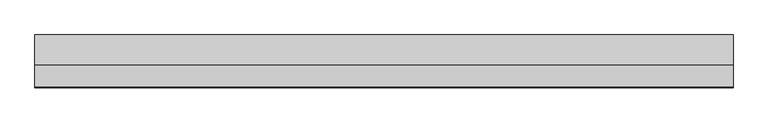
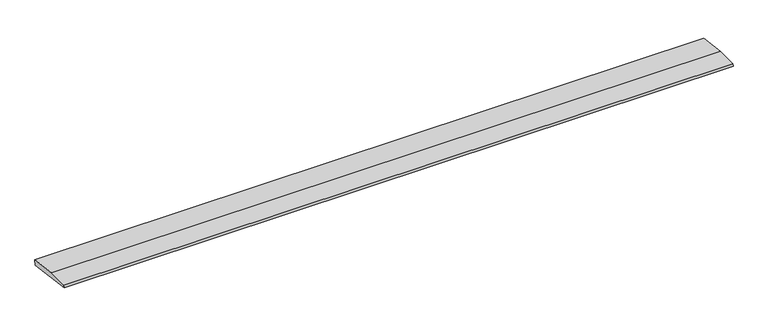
"""IFC4 building model written with IfcOpenShell, lengths in millimetres: beam geometry, weatherboad : weatherboad."""

from ifc_helpers import new_model, si_unit, frame, origin, place, context, project, spatial, polyline, outline, extrude, source, transform, mapped, element, save


def beam_09a4361b(model_context):
    return source(origin(), model_context, "Body", "SweptSolid", [
        extrude(outline(polyline([(0.0, -9.143159), (1.1226388, 0.0), (79.0749747, 0.0), (180.9387048, -12.5072934), (178.6231873, -31.3656703), (0.0, -9.143159)])), frame((-1194.699082, 0.0, 0.0), z_axis=(1.0, 0.0, 0.0), x_axis=(0.0, 1.0, 0.0)), (0.0, 0.0, 1.0), 2389.3981639),
    ])


if __name__ == "__main__":
    model = new_model("IFC4")
    model_context = context("Model", 3, world=origin())
    ifc_project = project(units=[si_unit("LENGTHUNIT", "METRE", prefix="MILLI")], contexts=[model_context])
    site = spatial("IfcSite", under=ifc_project)
    building = spatial("IfcBuilding", under=site)
    placement = place(None, origin())
    beam_shape = beam_09a4361b(model_context)
    element("IfcBeam", 1, ObjectType="weatherboad : weatherboad", at=placement, inside=building, context=model_context, shape_type="MappedRepresentation", body=[
        mapped(beam_shape, transform((0.0, 0.0, 0.0), x_axis=(1.0, 0.0, 0.0), y_axis=(0.0, 1.0, 0.0), z_axis=(0.0, 0.0, 1.0))),
    ])
    save(model, "model.ifc")
